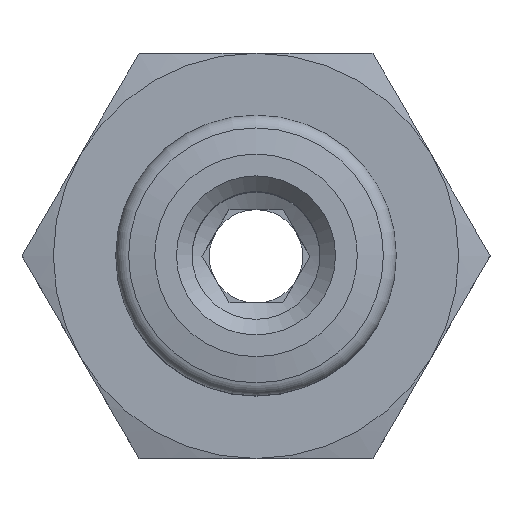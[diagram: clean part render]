
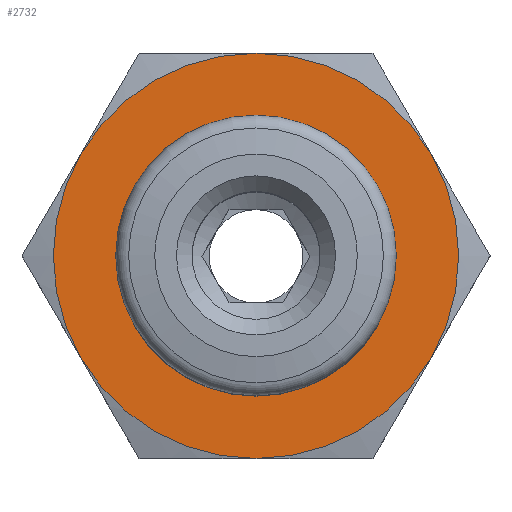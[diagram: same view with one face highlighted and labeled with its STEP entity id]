
A CAD part, top view. The second image highlights one B-rep face of the part: STEP entity #2732.
In plain terms, the highlighted planar face has unit normal (0, 0, 1) as drawn and (0, 1, 0) by its records, which use the part's own axes.
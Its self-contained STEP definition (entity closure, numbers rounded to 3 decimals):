
#713=CIRCLE('',#2619,6.5);
#714=CIRCLE('',#2621,6.5);
#715=CIRCLE('',#2622,6.5);
#716=CIRCLE('',#2623,6.5);
#717=CIRCLE('',#2624,6.5);
#718=CIRCLE('',#2625,6.5);
#719=CIRCLE('',#2626,4.5);
#855=ORIENTED_EDGE('',*,*,#1163,.F.);
#856=ORIENTED_EDGE('',*,*,#1164,.F.);
#857=ORIENTED_EDGE('',*,*,#1165,.F.);
#858=ORIENTED_EDGE('',*,*,#1166,.F.);
#859=ORIENTED_EDGE('',*,*,#1167,.F.);
#860=ORIENTED_EDGE('',*,*,#1168,.F.);
#861=ORIENTED_EDGE('',*,*,#1169,.T.);
#1061=VERTEX_POINT('',#2373);
#1066=VERTEX_POINT('',#2385);
#1069=VERTEX_POINT('',#2395);
#1072=VERTEX_POINT('',#2405);
#1073=VERTEX_POINT('',#2411);
#1076=VERTEX_POINT('',#2421);
#1077=VERTEX_POINT('',#2427);
#1163=EDGE_CURVE('',#1073,#1072,#713,.T.);
#1164=EDGE_CURVE('',#1076,#1073,#714,.T.);
#1165=EDGE_CURVE('',#1061,#1076,#715,.T.);
#1166=EDGE_CURVE('',#1066,#1061,#716,.T.);
#1167=EDGE_CURVE('',#1069,#1066,#717,.T.);
#1168=EDGE_CURVE('',#1072,#1069,#718,.T.);
#1169=EDGE_CURVE('',#1077,#1077,#719,.T.);
#1246=EDGE_LOOP('',(#855,#856,#857,#858,#859,#860));
#1247=EDGE_LOOP('',(#861));
#1348=FACE_BOUND('',#1246,.T.);
#1349=FACE_BOUND('',#1247,.T.);
#1428=PLANE('',#2620);
#2110=DIRECTION('',(0.,-1.,0.));
#2111=DIRECTION('',(-5.629,0.,-3.25));
#2112=DIRECTION('',(0.,1.,0.));
#2113=DIRECTION('',(1.,0.,0.));
#2114=DIRECTION('',(0.,-1.,0.));
#2115=DIRECTION('',(-5.629,0.,3.25));
#2116=DIRECTION('',(0.,-1.,0.));
#2117=DIRECTION('',(0.,0.,6.5));
#2118=DIRECTION('',(0.,-1.,0.));
#2119=DIRECTION('',(5.629,0.,3.25));
#2120=DIRECTION('',(0.,-1.,0.));
#2121=DIRECTION('',(5.629,0.,-3.25));
#2122=DIRECTION('',(0.,-1.,0.));
#2123=DIRECTION('',(0.,0.,-6.5));
#2124=DIRECTION('',(0.,-1.,0.));
#2125=DIRECTION('',(0.,0.,4.5));
#2373=CARTESIAN_POINT('',(9.364,15.88,6.5));
#2385=CARTESIAN_POINT('',(14.994,15.88,3.25));
#2395=CARTESIAN_POINT('',(14.994,15.88,-3.25));
#2405=CARTESIAN_POINT('',(9.364,15.88,-6.5));
#2411=CARTESIAN_POINT('',(3.735,15.88,-3.25));
#2419=CARTESIAN_POINT('',(9.364,15.88,0.));
#2420=CARTESIAN_POINT('',(15.864,15.88,0.));
#2421=CARTESIAN_POINT('',(3.735,15.88,3.25));
#2422=CARTESIAN_POINT('',(9.364,15.88,0.));
#2423=CARTESIAN_POINT('',(9.364,15.88,0.));
#2424=CARTESIAN_POINT('',(9.364,15.88,0.));
#2425=CARTESIAN_POINT('',(9.364,15.88,0.));
#2426=CARTESIAN_POINT('',(9.364,15.88,0.));
#2427=CARTESIAN_POINT('',(9.364,15.88,4.5));
#2428=CARTESIAN_POINT('',(9.364,15.88,0.));
#2619=AXIS2_PLACEMENT_3D('',#2419,#2110,#2111);
#2620=AXIS2_PLACEMENT_3D('',#2420,#2112,#2113);
#2621=AXIS2_PLACEMENT_3D('',#2422,#2114,#2115);
#2622=AXIS2_PLACEMENT_3D('',#2423,#2116,#2117);
#2623=AXIS2_PLACEMENT_3D('',#2424,#2118,#2119);
#2624=AXIS2_PLACEMENT_3D('',#2425,#2120,#2121);
#2625=AXIS2_PLACEMENT_3D('',#2426,#2122,#2123);
#2626=AXIS2_PLACEMENT_3D('',#2428,#2124,#2125);
#2732=ADVANCED_FACE('',(#1348,#1349),#1428,.T.);
